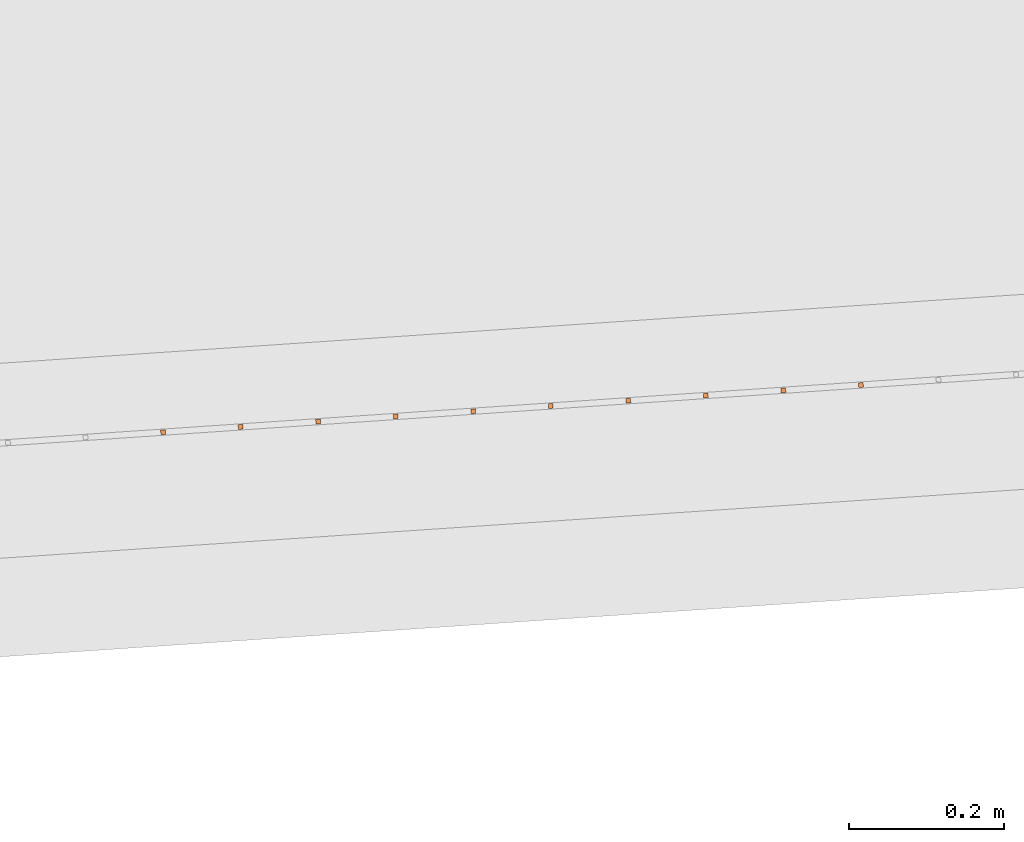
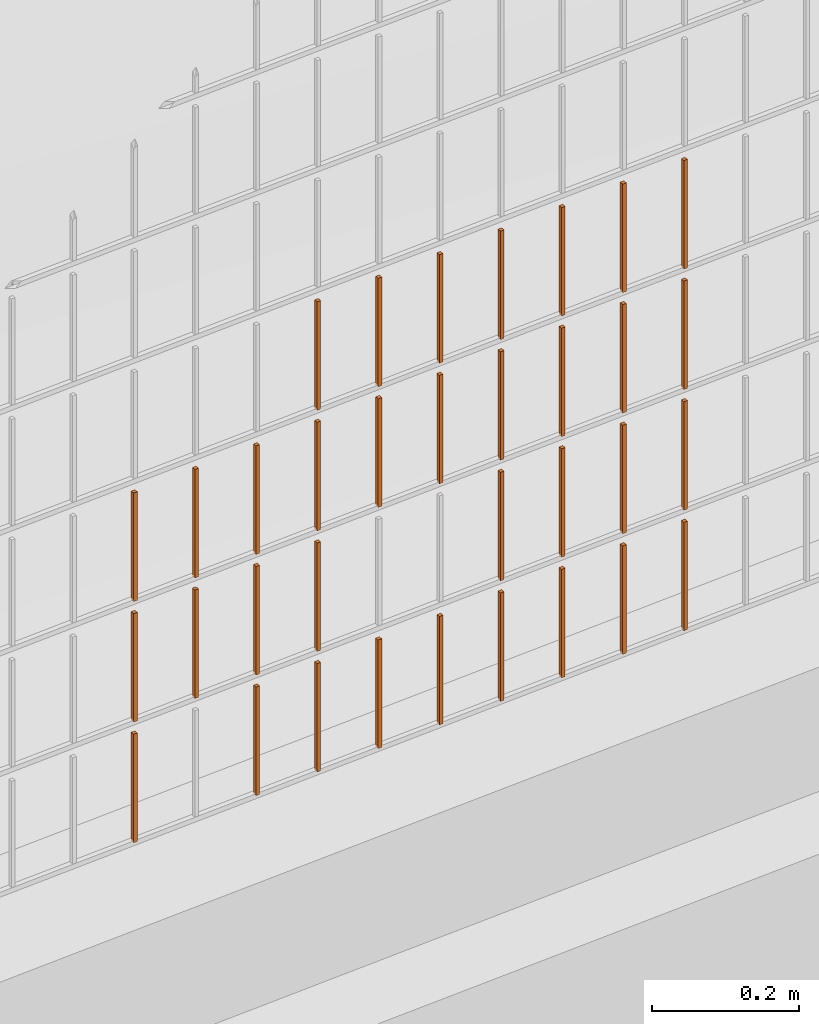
# One storey, part 389 of 1809: 34 proxies, 1 element without a shape of its own.
"""IFC2X3 building model written with IfcOpenShell, lengths in millimetres."""

from ifc_helpers import new_model, entity, si_unit, converted_unit, derived_unit, money_unit, direction, frame, origin_with_axes, place, context, subcontext, project, spatial, faceted_brep, source, transform, mapped, material, type_object, element, aggregate, save


model = new_model("IFC2X3")

# Units and contexts
model_context = context("Model", 3, precision=0.01, world=origin_with_axes(), true_north=direction((0.0, 1.0)))
body_context = subcontext(model_context, "Body", "Model", "MODEL_VIEW")
ifc_project = project(units=[si_unit("LENGTHUNIT", "METRE", prefix="MILLI"), si_unit("AREAUNIT", "SQUARE_METRE"), si_unit("VOLUMEUNIT", "CUBIC_METRE"), converted_unit("PLANEANGLEUNIT", "DEGREE", entity("IfcPlaneAngleMeasure", 0.0174532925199), si_unit("PLANEANGLEUNIT", "RADIAN"), dimensions=[0, 0, 0, 0, 0, 0, 0]), si_unit("SOLIDANGLEUNIT", "STERADIAN"), money_unit("EUR"), converted_unit("TIMEUNIT", "Year", entity("IfcTimeMeasure", 31556926.0), si_unit("TIMEUNIT", "SECOND"), dimensions=[0, 0, 1, 0, 0, 0, 0]), si_unit("MASSUNIT", "GRAM", prefix="KILO"), si_unit("THERMODYNAMICTEMPERATUREUNIT", "DEGREE_CELSIUS"), si_unit("LUMINOUSINTENSITYUNIT", "LUMEN"), si_unit("ENERGYUNIT", "JOULE", prefix="MEGA"), derived_unit("THERMALCONDUCTANCEUNIT", [(si_unit("POWERUNIT", "WATT"), 1), (si_unit("LENGTHUNIT", "METRE"), -1), (si_unit("THERMODYNAMICTEMPERATUREUNIT", "KELVIN"), -1)]), derived_unit("SPECIFICHEATCAPACITYUNIT", [(si_unit("ENERGYUNIT", "JOULE"), 1), (si_unit("MASSUNIT", "GRAM", prefix="KILO"), -1), (si_unit("THERMODYNAMICTEMPERATUREUNIT", "KELVIN"), -1)]), derived_unit("MASSDENSITYUNIT", [(si_unit("MASSUNIT", "GRAM", prefix="KILO"), 1), (si_unit("VOLUMEUNIT", "CUBIC_METRE"), -1)])], contexts=[model_context])

# Site, building, storey
site_placement = place(None, origin_with_axes())
site = spatial("IfcSite", under=ifc_project, at=site_placement, Name="Politse- ja Piirivalveameti ning Päästeameti ühishoone", CompositionType="ELEMENT")
building_placement = place(site_placement, origin_with_axes())
building = spatial("IfcBuilding", under=site, at=building_placement, Name="Politse- ja Piirivalveameti ning Päästeameti ühishoone", CompositionType="ELEMENT")
storey_placement = place(building_placement, origin_with_axes())
storey = spatial("IfcBuildingStorey", under=building, at=storey_placement, Name="Esimene korrus", CompositionType="ELEMENT", Elevation=0.0)

# Proxies
building_element_proxy_type_1 = type_object("IfcBuildingElementProxyType", Name="Railing Type", PredefinedType="NOTDEFINED")
proxy_1_placement = place(storey_placement, frame((89252.001212, -29183.4766571, 203.661247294), z_axis=(0.0, 0.0, 1.0), x_axis=(1.0, 0.0, 0.0)))
proxy_1 = element("IfcBuildingElementProxy", 1, at=proxy_1_placement, inside=storey, type_object=building_element_proxy_type_1, Name="PIIRDEAED")
ifc_material = material(Name="ET-03_Raud")
building_element_proxy_type_2 = type_object("IfcBuildingElementProxyType", Name="IfcBuildingElementProxy", PredefinedType="NOTDEFINED")
shared_shape_1 = source(origin_with_axes(), body_context, "Body", "Brep", [
    faceted_brep([(3.0, 3.0, -0.000752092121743), (-3.0, 3.0, -0.000752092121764), (-3.0, 3.0, 179.99926046), (3.0, 3.0, 179.99926046), (3.0, -3.0, 0.000752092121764), (-3.0, -3.0, 0.000752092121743), (-3.0, -3.0, 180.000764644), (3.0, -3.0, 180.000764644)], [[[0, 1, 2, 3]], [[0, 4, 5, 1]], [[1, 5, 6, 2]], [[3, 2, 6, 7]], [[4, 0, 3, 7]], [[5, 4, 7, 6]]]),
])
proxy_2_placement = place(proxy_1_placement, frame((-13895.0260654, -18236.3313344, 23.7430014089), z_axis=(0.0, 0.0, 1.0), x_axis=(1.0, 0.0, 0.0)))
proxy_2 = element("IfcBuildingElementProxy", 2, at=proxy_2_placement, type_object=building_element_proxy_type_2, material=ifc_material, Name="BALUSTER - 001", context=body_context, shape_type="MappedRepresentation", body=[
    mapped(shared_shape_1, transform((0.0, 0.0, 0.0), x_axis=(-0.0673926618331, 0.997726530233, 0.0), y_axis=(-0.997726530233, -0.0673926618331, 0.0), z_axis=(0.0, 0.0, 1.0))),
])
shared_shape_2 = source(origin_with_axes(), body_context, "Body", "Brep", [
    faceted_brep([(3.0, 3.0, -0.000752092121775), (-3.0, 3.0, -0.000752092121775), (-3.0, 3.0, 179.99926046), (3.0, 3.0, 179.99926046), (3.0, -3.0, 0.000752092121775), (-3.0, -3.0, 0.000752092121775), (-3.0, -3.0, 180.000764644), (3.0, -3.0, 180.000764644)], [[[0, 1, 2, 3]], [[0, 4, 5, 1]], [[1, 5, 6, 2]], [[3, 2, 6, 7]], [[4, 0, 3, 7]], [[5, 4, 7, 6]]]),
])
proxy_3_placement = place(proxy_1_placement, frame((-13196.6174943, -18189.1564711, 23.9184895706), z_axis=(0.0, 0.0, 1.0), x_axis=(1.0, 0.0, 0.0)))
proxy_3 = element("IfcBuildingElementProxy", 3, at=proxy_3_placement, type_object=building_element_proxy_type_2, material=ifc_material, Name="BALUSTER - 001", context=body_context, shape_type="MappedRepresentation", body=[
    mapped(shared_shape_2, transform((0.0, 0.0, 0.0), x_axis=(-0.0673926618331, 0.997726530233, 0.0), y_axis=(-0.997726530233, -0.0673926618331, 0.0), z_axis=(0.0, 0.0, 1.0))),
])
proxy_4_placement = place(proxy_1_placement, frame((-13196.6174943, -18189.1564711, 223.918489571), z_axis=(0.0, 0.0, 1.0), x_axis=(1.0, 0.0, 0.0)))
proxy_4 = element("IfcBuildingElementProxy", 4, at=proxy_4_placement, type_object=building_element_proxy_type_2, material=ifc_material, Name="BALUSTER - 001", context=body_context, shape_type="MappedRepresentation", body=[
    mapped(shared_shape_2, transform((0.0, 0.0, 0.0), x_axis=(-0.0673926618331, 0.997726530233, 0.0), y_axis=(-0.997726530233, -0.0673926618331, 0.0), z_axis=(0.0, 0.0, 1.0))),
])
shared_shape_3 = source(origin_with_axes(), body_context, "Body", "Brep", [
    faceted_brep([(3.0, 3.0, -0.000752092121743), (-3.0, 3.0, -0.000752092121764), (-3.0, 3.0, 179.99926046), (3.0, 3.0, 179.99926046), (3.0, -3.0, 0.000752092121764), (-3.0, -3.0, 0.000752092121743), (-3.0, -3.0, 180.000764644), (3.0, -3.0, 180.000764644)], [[[0, 1, 2, 3]], [[0, 4, 5, 1]], [[1, 5, 6, 2]], [[3, 2, 6, 7]], [[4, 0, 3, 7]], [[5, 4, 7, 6]]]),
])
proxy_5_placement = place(proxy_1_placement, frame((-13895.0260654, -18236.3313344, 223.743001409), z_axis=(0.0, 0.0, 1.0), x_axis=(1.0, 0.0, 0.0)))
proxy_5 = element("IfcBuildingElementProxy", 5, at=proxy_5_placement, type_object=building_element_proxy_type_2, material=ifc_material, Name="BALUSTER - 001", context=body_context, shape_type="MappedRepresentation", body=[
    mapped(shared_shape_3, transform((0.0, 0.0, 0.0), x_axis=(-0.0673926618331, 0.997726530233, 0.0), y_axis=(-0.997726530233, -0.0673926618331, 0.0), z_axis=(0.0, 0.0, 1.0))),
])
proxy_6_placement = place(proxy_1_placement, frame((-13994.7987184, -18243.0706006, 223.717931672), z_axis=(0.0, 0.0, 1.0), x_axis=(1.0, 0.0, 0.0)))
proxy_6 = element("IfcBuildingElementProxy", 6, at=proxy_6_placement, type_object=building_element_proxy_type_2, material=ifc_material, Name="BALUSTER - 001", context=body_context, shape_type="MappedRepresentation", body=[
    mapped(shared_shape_3, transform((0.0, 0.0, 0.0), x_axis=(-0.0673926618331, 0.997726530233, 0.0), y_axis=(-0.997726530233, -0.0673926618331, 0.0), z_axis=(0.0, 0.0, 1.0))),
])
proxy_7_placement = place(proxy_1_placement, frame((-13895.0260654, -18236.3313344, 423.743001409), z_axis=(0.0, 0.0, 1.0), x_axis=(1.0, 0.0, 0.0)))
proxy_7 = element("IfcBuildingElementProxy", 7, at=proxy_7_placement, type_object=building_element_proxy_type_2, material=ifc_material, Name="BALUSTER - 001", context=body_context, shape_type="MappedRepresentation", body=[
    mapped(shared_shape_3, transform((0.0, 0.0, 0.0), x_axis=(-0.0673926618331, 0.997726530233, 0.0), y_axis=(-0.997726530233, -0.0673926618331, 0.0), z_axis=(0.0, 0.0, 1.0))),
])
shared_shape_4 = source(origin_with_axes(), body_context, "Body", "Brep", [
    faceted_brep([(3.0, 3.0, -0.000752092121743), (-3.0, 3.0, -0.000752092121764), (-3.0, 3.0, 179.99926046), (3.0, 3.0, 179.99926046), (3.0, -3.0, 0.000752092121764), (-3.0, -3.0, 0.000752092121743), (-3.0, -3.0, 180.000764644), (3.0, -3.0, 180.000764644)], [[[0, 1, 2, 3]], [[0, 4, 5, 1]], [[1, 5, 6, 2]], [[3, 2, 6, 7]], [[4, 0, 3, 7]], [[5, 4, 7, 6]]]),
])
proxy_8_placement = place(proxy_1_placement, frame((-13994.7987184, -18243.0706006, 423.717931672), z_axis=(0.0, 0.0, 1.0), x_axis=(1.0, 0.0, 0.0)))
proxy_8 = element("IfcBuildingElementProxy", 8, at=proxy_8_placement, type_object=building_element_proxy_type_2, material=ifc_material, Name="BALUSTER - 001", context=body_context, shape_type="MappedRepresentation", body=[
    mapped(shared_shape_4, transform((0.0, 0.0, 0.0), x_axis=(-0.0673926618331, 0.997726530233, 0.0), y_axis=(-0.997726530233, -0.0673926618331, 0.0), z_axis=(0.0, 0.0, 1.0))),
])
shared_shape_5 = source(origin_with_axes(), body_context, "Body", "Brep", [
    faceted_brep([(3.0, 3.0, -0.000752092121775), (-3.0, 3.0, -0.000752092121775), (-3.0, 3.0, 179.99926046), (3.0, 3.0, 179.99926046), (3.0, -3.0, 0.000752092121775), (-3.0, -3.0, 0.000752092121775), (-3.0, -3.0, 180.000764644), (3.0, -3.0, 180.000764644)], [[[0, 1, 2, 3]], [[0, 4, 5, 1]], [[1, 5, 6, 2]], [[3, 2, 6, 7]], [[4, 0, 3, 7]], [[5, 4, 7, 6]]]),
])
proxy_9_placement = place(proxy_1_placement, frame((-13196.6174943, -18189.1564711, 423.918489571), z_axis=(0.0, 0.0, 1.0), x_axis=(1.0, 0.0, 0.0)))
proxy_9 = element("IfcBuildingElementProxy", 9, at=proxy_9_placement, type_object=building_element_proxy_type_2, material=ifc_material, Name="BALUSTER - 001", context=body_context, shape_type="MappedRepresentation", body=[
    mapped(shared_shape_5, transform((0.0, 0.0, 0.0), x_axis=(-0.0673926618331, 0.997726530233, 0.0), y_axis=(-0.997726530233, -0.0673926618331, 0.0), z_axis=(0.0, 0.0, 1.0))),
])
shared_shape_6 = source(origin_with_axes(), body_context, "Body", "Brep", [
    faceted_brep([(3.0, 3.0, -0.000752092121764), (-3.0, 3.0, -0.000752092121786), (-3.0, 3.0, 179.99926046), (3.0, 3.0, 179.99926046), (3.0, -3.0, 0.000752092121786), (-3.0, -3.0, 0.000752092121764), (-3.0, -3.0, 180.000764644), (3.0, -3.0, 180.000764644)], [[[0, 1, 2, 3]], [[0, 4, 5, 1]], [[1, 5, 6, 2]], [[3, 2, 6, 7]], [[4, 0, 3, 7]], [[5, 4, 7, 6]]]),
])
proxy_10_placement = place(proxy_1_placement, frame((-14094.5713715, -18249.8098668, 223.692861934), z_axis=(0.0, 0.0, 1.0), x_axis=(1.0, 0.0, 0.0)))
proxy_10 = element("IfcBuildingElementProxy", 10, at=proxy_10_placement, type_object=building_element_proxy_type_2, material=ifc_material, Name="BALUSTER - 001", context=body_context, shape_type="MappedRepresentation", body=[
    mapped(shared_shape_6, transform((0.0, 0.0, 0.0), x_axis=(-0.0673926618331, 0.997726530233, 0.0), y_axis=(-0.997726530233, -0.0673926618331, 0.0), z_axis=(0.0, 0.0, 1.0))),
])
proxy_11_placement = place(proxy_1_placement, frame((-14094.5713715, -18249.8098668, 423.692861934), z_axis=(0.0, 0.0, 1.0), x_axis=(1.0, 0.0, 0.0)))
proxy_11 = element("IfcBuildingElementProxy", 11, at=proxy_11_placement, type_object=building_element_proxy_type_2, material=ifc_material, Name="BALUSTER - 001", context=body_context, shape_type="MappedRepresentation", body=[
    mapped(shared_shape_6, transform((0.0, 0.0, 0.0), x_axis=(-0.0673926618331, 0.997726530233, 0.0), y_axis=(-0.997726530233, -0.0673926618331, 0.0), z_axis=(0.0, 0.0, 1.0))),
])
shared_shape_7 = source(origin_with_axes(), body_context, "Body", "Brep", [
    faceted_brep([(3.0, 3.0, -0.000752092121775), (-3.0, 3.0, -0.000752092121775), (-3.0, 3.0, 179.99926046), (3.0, 3.0, 179.99926046), (3.0, -3.0, 0.000752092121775), (-3.0, -3.0, 0.000752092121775), (-3.0, -3.0, 180.000764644), (3.0, -3.0, 180.000764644)], [[[0, 1, 2, 3]], [[0, 4, 5, 1]], [[1, 5, 6, 2]], [[3, 2, 6, 7]], [[4, 0, 3, 7]], [[5, 4, 7, 6]]]),
])
proxy_12_placement = place(proxy_1_placement, frame((-13795.2534124, -18229.5920682, 423.768071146), z_axis=(0.0, 0.0, 1.0), x_axis=(1.0, 0.0, 0.0)))
proxy_12 = element("IfcBuildingElementProxy", 12, at=proxy_12_placement, type_object=building_element_proxy_type_2, material=ifc_material, Name="BALUSTER - 001", context=body_context, shape_type="MappedRepresentation", body=[
    mapped(shared_shape_7, transform((0.0, 0.0, 0.0), x_axis=(-0.0673926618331, 0.997726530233, 0.0), y_axis=(-0.997726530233, -0.0673926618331, 0.0), z_axis=(0.0, 0.0, 1.0))),
])
shared_shape_8 = source(origin_with_axes(), body_context, "Body", "Brep", [
    faceted_brep([(3.0, 3.0, -0.000752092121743), (-3.0, 3.0, -0.000752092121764), (-3.0, 3.0, 179.99926046), (3.0, 3.0, 179.99926046), (3.0, -3.0, 0.000752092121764), (-3.0, -3.0, 0.000752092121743), (-3.0, -3.0, 180.000764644), (3.0, -3.0, 180.000764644)], [[[0, 1, 2, 3]], [[0, 4, 5, 1]], [[1, 5, 6, 2]], [[3, 2, 6, 7]], [[4, 0, 3, 7]], [[5, 4, 7, 6]]]),
])
proxy_13_placement = place(proxy_1_placement, frame((-13296.3901473, -18195.8957373, 223.893419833), z_axis=(0.0, 0.0, 1.0), x_axis=(1.0, 0.0, 0.0)))
proxy_13 = element("IfcBuildingElementProxy", 13, at=proxy_13_placement, type_object=building_element_proxy_type_2, material=ifc_material, Name="BALUSTER - 001", context=body_context, shape_type="MappedRepresentation", body=[
    mapped(shared_shape_8, transform((0.0, 0.0, 0.0), x_axis=(-0.0673926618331, 0.997726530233, 0.0), y_axis=(-0.997726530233, -0.0673926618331, 0.0), z_axis=(0.0, 0.0, 1.0))),
])
proxy_14_placement = place(proxy_1_placement, frame((-13396.1628003, -18202.6350035, 223.868350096), z_axis=(0.0, 0.0, 1.0), x_axis=(1.0, 0.0, 0.0)))
proxy_14 = element("IfcBuildingElementProxy", 14, at=proxy_14_placement, type_object=building_element_proxy_type_2, material=ifc_material, Name="BALUSTER - 001", context=body_context, shape_type="MappedRepresentation", body=[
    mapped(shared_shape_8, transform((0.0, 0.0, 0.0), x_axis=(-0.0673926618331, 0.997726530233, 0.0), y_axis=(-0.997726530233, -0.0673926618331, 0.0), z_axis=(0.0, 0.0, 1.0))),
])
proxy_15_placement = place(proxy_1_placement, frame((-13396.1628003, -18202.6350035, 423.868350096), z_axis=(0.0, 0.0, 1.0), x_axis=(1.0, 0.0, 0.0)))
proxy_15 = element("IfcBuildingElementProxy", 15, at=proxy_15_placement, type_object=building_element_proxy_type_2, material=ifc_material, Name="BALUSTER - 001", context=body_context, shape_type="MappedRepresentation", body=[
    mapped(shared_shape_8, transform((0.0, 0.0, 0.0), x_axis=(-0.0673926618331, 0.997726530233, 0.0), y_axis=(-0.997726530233, -0.0673926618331, 0.0), z_axis=(0.0, 0.0, 1.0))),
])
shared_shape_9 = source(origin_with_axes(), body_context, "Body", "Brep", [
    faceted_brep([(3.0, 3.0, -0.000752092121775), (-3.0, 3.0, -0.000752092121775), (-3.0, 3.0, 179.99926046), (3.0, 3.0, 179.99926046), (3.0, -3.0, 0.000752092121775), (-3.0, -3.0, 0.000752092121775), (-3.0, -3.0, 180.000764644), (3.0, -3.0, 180.000764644)], [[[0, 1, 2, 3]], [[0, 4, 5, 1]], [[1, 5, 6, 2]], [[3, 2, 6, 7]], [[4, 0, 3, 7]], [[5, 4, 7, 6]]]),
])
proxy_16_placement = place(proxy_1_placement, frame((-13196.6174943, -18189.1564711, 623.918489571), z_axis=(0.0, 0.0, 1.0), x_axis=(1.0, 0.0, 0.0)))
proxy_16 = element("IfcBuildingElementProxy", 16, at=proxy_16_placement, type_object=building_element_proxy_type_2, material=ifc_material, Name="BALUSTER - 001", context=body_context, shape_type="MappedRepresentation", body=[
    mapped(shared_shape_9, transform((0.0, 0.0, 0.0), x_axis=(-0.0673926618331, 0.997726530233, 0.0), y_axis=(-0.997726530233, -0.0673926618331, 0.0), z_axis=(0.0, 0.0, 1.0))),
])
shared_shape_10 = source(origin_with_axes(), body_context, "Body", "Brep", [
    faceted_brep([(3.0, 3.0, -0.000752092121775), (-3.0, 3.0, -0.000752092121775), (-3.0, 3.0, 179.99926046), (3.0, 3.0, 179.99926046), (3.0, -3.0, 0.000752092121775), (-3.0, -3.0, 0.000752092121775), (-3.0, -3.0, 180.000764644), (3.0, -3.0, 180.000764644)], [[[0, 1, 2, 3]], [[0, 4, 5, 1]], [[1, 5, 6, 2]], [[3, 2, 6, 7]], [[4, 0, 3, 7]], [[5, 4, 7, 6]]]),
])
proxy_17_placement = place(proxy_1_placement, frame((-13795.2534124, -18229.5920682, 623.768071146), z_axis=(0.0, 0.0, 1.0), x_axis=(1.0, 0.0, 0.0)))
proxy_17 = element("IfcBuildingElementProxy", 17, at=proxy_17_placement, type_object=building_element_proxy_type_2, material=ifc_material, Name="BALUSTER - 001", context=body_context, shape_type="MappedRepresentation", body=[
    mapped(shared_shape_10, transform((0.0, 0.0, 0.0), x_axis=(-0.0673926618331, 0.997726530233, 0.0), y_axis=(-0.997726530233, -0.0673926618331, 0.0), z_axis=(0.0, 0.0, 1.0))),
])
shared_shape_11 = source(origin_with_axes(), body_context, "Body", "Brep", [
    faceted_brep([(3.0, 3.0, -0.000752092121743), (-3.0, 3.0, -0.000752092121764), (-3.0, 3.0, 179.99926046), (3.0, 3.0, 179.99926046), (3.0, -3.0, 0.000752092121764), (-3.0, -3.0, 0.000752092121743), (-3.0, -3.0, 180.000764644), (3.0, -3.0, 180.000764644)], [[[0, 1, 2, 3]], [[0, 4, 5, 1]], [[1, 5, 6, 2]], [[3, 2, 6, 7]], [[4, 0, 3, 7]], [[5, 4, 7, 6]]]),
])
proxy_18_placement = place(proxy_1_placement, frame((-13396.1628003, -18202.6350035, 623.868350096), z_axis=(0.0, 0.0, 1.0), x_axis=(1.0, 0.0, 0.0)))
proxy_18 = element("IfcBuildingElementProxy", 18, at=proxy_18_placement, type_object=building_element_proxy_type_2, material=ifc_material, Name="BALUSTER - 001", context=body_context, shape_type="MappedRepresentation", body=[
    mapped(shared_shape_11, transform((0.0, 0.0, 0.0), x_axis=(-0.0673926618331, 0.997726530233, 0.0), y_axis=(-0.997726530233, -0.0673926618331, 0.0), z_axis=(0.0, 0.0, 1.0))),
])
shared_shape_12 = source(origin_with_axes(), body_context, "Body", "Brep", [
    faceted_brep([(3.0, 3.0, -0.000752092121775), (-3.0, 3.0, -0.000752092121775), (-3.0, 3.0, 179.99926046), (3.0, 3.0, 179.99926046), (3.0, -3.0, 0.000752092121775), (-3.0, -3.0, 0.000752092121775), (-3.0, -3.0, 180.000764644), (3.0, -3.0, 180.000764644)], [[[0, 1, 2, 3]], [[0, 4, 5, 1]], [[1, 5, 6, 2]], [[3, 2, 6, 7]], [[4, 0, 3, 7]], [[5, 4, 7, 6]]]),
])
proxy_19_placement = place(proxy_1_placement, frame((-13795.2534124, -18229.5920682, 23.7680711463), z_axis=(0.0, 0.0, 1.0), x_axis=(1.0, 0.0, 0.0)))
proxy_19 = element("IfcBuildingElementProxy", 19, at=proxy_19_placement, type_object=building_element_proxy_type_2, material=ifc_material, Name="BALUSTER - 001", context=body_context, shape_type="MappedRepresentation", body=[
    mapped(shared_shape_12, transform((0.0, 0.0, 0.0), x_axis=(-0.0673926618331, 0.997726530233, 0.0), y_axis=(-0.997726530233, -0.0673926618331, 0.0), z_axis=(0.0, 0.0, 1.0))),
])
shared_shape_13 = source(origin_with_axes(), body_context, "Body", "Brep", [
    faceted_brep([(3.0, 3.0, -0.000752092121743), (-3.0, 3.0, -0.000752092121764), (-3.0, 3.0, 179.99926046), (3.0, 3.0, 179.99926046), (3.0, -3.0, 0.000752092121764), (-3.0, -3.0, 0.000752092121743), (-3.0, -3.0, 180.000764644), (3.0, -3.0, 180.000764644)], [[[0, 1, 2, 3]], [[0, 4, 5, 1]], [[1, 5, 6, 2]], [[3, 2, 6, 7]], [[4, 0, 3, 7]], [[5, 4, 7, 6]]]),
])
proxy_20_placement = place(proxy_1_placement, frame((-13296.3901473, -18195.8957373, 23.8934198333), z_axis=(0.0, 0.0, 1.0), x_axis=(1.0, 0.0, 0.0)))
proxy_20 = element("IfcBuildingElementProxy", 20, at=proxy_20_placement, type_object=building_element_proxy_type_2, material=ifc_material, Name="BALUSTER - 001", context=body_context, shape_type="MappedRepresentation", body=[
    mapped(shared_shape_13, transform((0.0, 0.0, 0.0), x_axis=(-0.0673926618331, 0.997726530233, 0.0), y_axis=(-0.997726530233, -0.0673926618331, 0.0), z_axis=(0.0, 0.0, 1.0))),
])
shared_shape_14 = source(origin_with_axes(), body_context, "Body", "Brep", [
    faceted_brep([(3.0, 3.0, -0.000752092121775), (-3.0, 3.0, -0.000752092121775), (-3.0, 3.0, 179.99926046), (3.0, 3.0, 179.99926046), (3.0, -3.0, 0.000752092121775), (-3.0, -3.0, 0.000752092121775), (-3.0, -3.0, 180.000764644), (3.0, -3.0, 180.000764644)], [[[0, 1, 2, 3]], [[0, 4, 5, 1]], [[1, 5, 6, 2]], [[3, 2, 6, 7]], [[4, 0, 3, 7]], [[5, 4, 7, 6]]]),
])
proxy_21_placement = place(proxy_1_placement, frame((-13795.2534124, -18229.5920682, 223.768071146), z_axis=(0.0, 0.0, 1.0), x_axis=(1.0, 0.0, 0.0)))
proxy_21 = element("IfcBuildingElementProxy", 21, at=proxy_21_placement, type_object=building_element_proxy_type_2, material=ifc_material, Name="BALUSTER - 001", context=body_context, shape_type="MappedRepresentation", body=[
    mapped(shared_shape_14, transform((0.0, 0.0, 0.0), x_axis=(-0.0673926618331, 0.997726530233, 0.0), y_axis=(-0.997726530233, -0.0673926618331, 0.0), z_axis=(0.0, 0.0, 1.0))),
])
shared_shape_15 = source(origin_with_axes(), body_context, "Body", "Brep", [
    faceted_brep([(3.0, 3.0, -0.000752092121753), (-3.0, 3.0, -0.000752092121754), (-3.0, 3.0, 179.99926046), (3.0, 3.0, 179.99926046), (3.0, -3.0, 0.000752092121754), (-3.0, -3.0, 0.000752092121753), (-3.0, -3.0, 180.000764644), (3.0, -3.0, 180.000764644)], [[[0, 1, 2, 3]], [[0, 4, 5, 1]], [[1, 5, 6, 2]], [[3, 2, 6, 7]], [[4, 0, 3, 7]], [[5, 4, 7, 6]]]),
])
proxy_22_placement = place(proxy_1_placement, frame((-13495.9354533, -18209.3742697, 423.843280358), z_axis=(0.0, 0.0, 1.0), x_axis=(1.0, 0.0, 0.0)))
proxy_22 = element("IfcBuildingElementProxy", 22, at=proxy_22_placement, type_object=building_element_proxy_type_2, material=ifc_material, Name="BALUSTER - 001", context=body_context, shape_type="MappedRepresentation", body=[
    mapped(shared_shape_15, transform((0.0, 0.0, 0.0), x_axis=(-0.0673926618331, 0.997726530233, 0.0), y_axis=(-0.997726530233, -0.0673926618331, 0.0), z_axis=(0.0, 0.0, 1.0))),
])
proxy_23_placement = place(proxy_1_placement, frame((-13495.9354533, -18209.3742697, 623.843280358), z_axis=(0.0, 0.0, 1.0), x_axis=(1.0, 0.0, 0.0)))
proxy_23 = element("IfcBuildingElementProxy", 23, at=proxy_23_placement, type_object=building_element_proxy_type_2, material=ifc_material, Name="BALUSTER - 001", context=body_context, shape_type="MappedRepresentation", body=[
    mapped(shared_shape_15, transform((0.0, 0.0, 0.0), x_axis=(-0.0673926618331, 0.997726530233, 0.0), y_axis=(-0.997726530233, -0.0673926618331, 0.0), z_axis=(0.0, 0.0, 1.0))),
])
shared_shape_16 = source(origin_with_axes(), body_context, "Body", "Brep", [
    faceted_brep([(3.0, 3.0, -0.000752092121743), (-3.0, 3.0, -0.000752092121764), (-3.0, 3.0, 179.99926046), (3.0, 3.0, 179.99926046), (3.0, -3.0, 0.000752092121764), (-3.0, -3.0, 0.000752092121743), (-3.0, -3.0, 180.000764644), (3.0, -3.0, 180.000764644)], [[[0, 1, 2, 3]], [[0, 4, 5, 1]], [[1, 5, 6, 2]], [[3, 2, 6, 7]], [[4, 0, 3, 7]], [[5, 4, 7, 6]]]),
])
proxy_24_placement = place(proxy_1_placement, frame((-13296.3901473, -18195.8957373, 423.893419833), z_axis=(0.0, 0.0, 1.0), x_axis=(1.0, 0.0, 0.0)))
proxy_24 = element("IfcBuildingElementProxy", 24, at=proxy_24_placement, type_object=building_element_proxy_type_2, material=ifc_material, Name="BALUSTER - 001", context=body_context, shape_type="MappedRepresentation", body=[
    mapped(shared_shape_16, transform((0.0, 0.0, 0.0), x_axis=(-0.0673926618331, 0.997726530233, 0.0), y_axis=(-0.997726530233, -0.0673926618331, 0.0), z_axis=(0.0, 0.0, 1.0))),
])
shared_shape_17 = source(origin_with_axes(), body_context, "Body", "Brep", [
    faceted_brep([(3.0, 3.0, -0.000752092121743), (-3.0, 3.0, -0.000752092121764), (-3.0, 3.0, 179.99926046), (3.0, 3.0, 179.99926046), (3.0, -3.0, 0.000752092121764), (-3.0, -3.0, 0.000752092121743), (-3.0, -3.0, 180.000764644), (3.0, -3.0, 180.000764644)], [[[0, 1, 2, 3]], [[0, 4, 5, 1]], [[1, 5, 6, 2]], [[3, 2, 6, 7]], [[4, 0, 3, 7]], [[5, 4, 7, 6]]]),
])
proxy_25_placement = place(proxy_1_placement, frame((-13396.1628003, -18202.6350035, 23.8683500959), z_axis=(0.0, 0.0, 1.0), x_axis=(1.0, 0.0, 0.0)))
proxy_25 = element("IfcBuildingElementProxy", 25, at=proxy_25_placement, type_object=building_element_proxy_type_2, material=ifc_material, Name="BALUSTER - 001", context=body_context, shape_type="MappedRepresentation", body=[
    mapped(shared_shape_17, transform((0.0, 0.0, 0.0), x_axis=(-0.0673926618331, 0.997726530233, 0.0), y_axis=(-0.997726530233, -0.0673926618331, 0.0), z_axis=(0.0, 0.0, 1.0))),
])
shared_shape_18 = source(origin_with_axes(), body_context, "Body", "Brep", [
    faceted_brep([(3.0, 3.0, -0.000752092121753), (-3.0, 3.0, -0.000752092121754), (-3.0, 3.0, 179.99926046), (3.0, 3.0, 179.99926046), (3.0, -3.0, 0.000752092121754), (-3.0, -3.0, 0.000752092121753), (-3.0, -3.0, 180.000764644), (3.0, -3.0, 180.000764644)], [[[0, 1, 2, 3]], [[0, 4, 5, 1]], [[1, 5, 6, 2]], [[3, 2, 6, 7]], [[4, 0, 3, 7]], [[5, 4, 7, 6]]]),
])
proxy_26_placement = place(proxy_1_placement, frame((-13595.7081064, -18216.1135358, 23.8182106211), z_axis=(0.0, 0.0, 1.0), x_axis=(1.0, 0.0, 0.0)))
proxy_26 = element("IfcBuildingElementProxy", 26, at=proxy_26_placement, type_object=building_element_proxy_type_2, material=ifc_material, Name="BALUSTER - 001", context=body_context, shape_type="MappedRepresentation", body=[
    mapped(shared_shape_18, transform((0.0, 0.0, 0.0), x_axis=(-0.0673926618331, 0.997726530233, 0.0), y_axis=(-0.997726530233, -0.0673926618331, 0.0), z_axis=(0.0, 0.0, 1.0))),
])
shared_shape_19 = source(origin_with_axes(), body_context, "Body", "Brep", [
    faceted_brep([(3.0, 3.0, -0.000752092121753), (-3.0, 3.0, -0.000752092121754), (-3.0, 3.0, 179.99926046), (3.0, 3.0, 179.99926046), (3.0, -3.0, 0.000752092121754), (-3.0, -3.0, 0.000752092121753), (-3.0, -3.0, 180.000764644), (3.0, -3.0, 180.000764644)], [[[0, 1, 2, 3]], [[0, 4, 5, 1]], [[1, 5, 6, 2]], [[3, 2, 6, 7]], [[4, 0, 3, 7]], [[5, 4, 7, 6]]]),
])
proxy_27_placement = place(proxy_1_placement, frame((-13495.9354533, -18209.3742697, 23.8432803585), z_axis=(0.0, 0.0, 1.0), x_axis=(1.0, 0.0, 0.0)))
proxy_27 = element("IfcBuildingElementProxy", 27, at=proxy_27_placement, type_object=building_element_proxy_type_2, material=ifc_material, Name="BALUSTER - 001", context=body_context, shape_type="MappedRepresentation", body=[
    mapped(shared_shape_19, transform((0.0, 0.0, 0.0), x_axis=(-0.0673926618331, 0.997726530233, 0.0), y_axis=(-0.997726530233, -0.0673926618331, 0.0), z_axis=(0.0, 0.0, 1.0))),
])
shared_shape_20 = source(origin_with_axes(), body_context, "Body", "Brep", [
    faceted_brep([(3.0, 3.0, -0.000752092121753), (-3.0, 3.0, -0.000752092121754), (-3.0, 3.0, 179.99926046), (3.0, 3.0, 179.99926046), (3.0, -3.0, 0.000752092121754), (-3.0, -3.0, 0.000752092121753), (-3.0, -3.0, 180.000764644), (3.0, -3.0, 180.000764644)], [[[0, 1, 2, 3]], [[0, 4, 5, 1]], [[1, 5, 6, 2]], [[3, 2, 6, 7]], [[4, 0, 3, 7]], [[5, 4, 7, 6]]]),
])
proxy_28_placement = place(proxy_1_placement, frame((-13595.7081064, -18216.1135358, 423.818210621), z_axis=(0.0, 0.0, 1.0), x_axis=(1.0, 0.0, 0.0)))
proxy_28 = element("IfcBuildingElementProxy", 28, at=proxy_28_placement, type_object=building_element_proxy_type_2, material=ifc_material, Name="BALUSTER - 001", context=body_context, shape_type="MappedRepresentation", body=[
    mapped(shared_shape_20, transform((0.0, 0.0, 0.0), x_axis=(-0.0673926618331, 0.997726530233, 0.0), y_axis=(-0.997726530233, -0.0673926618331, 0.0), z_axis=(0.0, 0.0, 1.0))),
])
shared_shape_21 = source(origin_with_axes(), body_context, "Body", "Brep", [
    faceted_brep([(3.0, 3.0, -0.000752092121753), (-3.0, 3.0, -0.000752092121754), (-3.0, 3.0, 179.99926046), (3.0, 3.0, 179.99926046), (3.0, -3.0, 0.000752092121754), (-3.0, -3.0, 0.000752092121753), (-3.0, -3.0, 180.000764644), (3.0, -3.0, 180.000764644)], [[[0, 1, 2, 3]], [[0, 4, 5, 1]], [[1, 5, 6, 2]], [[3, 2, 6, 7]], [[4, 0, 3, 7]], [[5, 4, 7, 6]]]),
])
proxy_29_placement = place(proxy_1_placement, frame((-13495.9354533, -18209.3742697, 223.843280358), z_axis=(0.0, 0.0, 1.0), x_axis=(1.0, 0.0, 0.0)))
proxy_29 = element("IfcBuildingElementProxy", 29, at=proxy_29_placement, type_object=building_element_proxy_type_2, material=ifc_material, Name="BALUSTER - 001", context=body_context, shape_type="MappedRepresentation", body=[
    mapped(shared_shape_21, transform((0.0, 0.0, 0.0), x_axis=(-0.0673926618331, 0.997726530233, 0.0), y_axis=(-0.997726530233, -0.0673926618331, 0.0), z_axis=(0.0, 0.0, 1.0))),
])
shared_shape_22 = source(origin_with_axes(), body_context, "Body", "Brep", [
    faceted_brep([(3.0, 3.0, -0.000752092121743), (-3.0, 3.0, -0.000752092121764), (-3.0, 3.0, 179.99926046), (3.0, 3.0, 179.99926046), (3.0, -3.0, 0.000752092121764), (-3.0, -3.0, 0.000752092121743), (-3.0, -3.0, 180.000764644), (3.0, -3.0, 180.000764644)], [[[0, 1, 2, 3]], [[0, 4, 5, 1]], [[1, 5, 6, 2]], [[3, 2, 6, 7]], [[4, 0, 3, 7]], [[5, 4, 7, 6]]]),
])
proxy_30_placement = place(proxy_1_placement, frame((-13296.3901473, -18195.8957373, 623.893419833), z_axis=(0.0, 0.0, 1.0), x_axis=(1.0, 0.0, 0.0)))
proxy_30 = element("IfcBuildingElementProxy", 30, at=proxy_30_placement, type_object=building_element_proxy_type_2, material=ifc_material, Name="BALUSTER - 001", context=body_context, shape_type="MappedRepresentation", body=[
    mapped(shared_shape_22, transform((0.0, 0.0, 0.0), x_axis=(-0.0673926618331, 0.997726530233, 0.0), y_axis=(-0.997726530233, -0.0673926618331, 0.0), z_axis=(0.0, 0.0, 1.0))),
])
shared_shape_23 = source(origin_with_axes(), body_context, "Body", "Brep", [
    faceted_brep([(3.0, 3.0, -0.000752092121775), (-3.0, 3.0, -0.000752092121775), (-3.0, 3.0, 179.99926046), (3.0, 3.0, 179.99926046), (3.0, -3.0, 0.000752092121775), (-3.0, -3.0, 0.000752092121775), (-3.0, -3.0, 180.000764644), (3.0, -3.0, 180.000764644)], [[[0, 1, 2, 3]], [[0, 4, 5, 1]], [[1, 5, 6, 2]], [[3, 2, 6, 7]], [[4, 0, 3, 7]], [[5, 4, 7, 6]]]),
])
proxy_31_placement = place(proxy_1_placement, frame((-13695.4807594, -18222.852802, 23.7931408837), z_axis=(0.0, 0.0, 1.0), x_axis=(1.0, 0.0, 0.0)))
proxy_31 = element("IfcBuildingElementProxy", 31, at=proxy_31_placement, type_object=building_element_proxy_type_2, material=ifc_material, Name="BALUSTER - 001", context=body_context, shape_type="MappedRepresentation", body=[
    mapped(shared_shape_23, transform((0.0, 0.0, 0.0), x_axis=(-0.0673926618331, 0.997726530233, 0.0), y_axis=(-0.997726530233, -0.0673926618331, 0.0), z_axis=(0.0, 0.0, 1.0))),
])
shared_shape_24 = source(origin_with_axes(), body_context, "Body", "Brep", [
    faceted_brep([(3.0, 3.0, -0.000752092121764), (-3.0, 3.0, -0.000752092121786), (-3.0, 3.0, 179.99926046), (3.0, 3.0, 179.99926046), (3.0, -3.0, 0.000752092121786), (-3.0, -3.0, 0.000752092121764), (-3.0, -3.0, 180.000764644), (3.0, -3.0, 180.000764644)], [[[0, 1, 2, 3]], [[0, 4, 5, 1]], [[1, 5, 6, 2]], [[3, 2, 6, 7]], [[4, 0, 3, 7]], [[5, 4, 7, 6]]]),
])
proxy_32_placement = place(proxy_1_placement, frame((-14094.5713715, -18249.8098668, 23.6928619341), z_axis=(0.0, 0.0, 1.0), x_axis=(1.0, 0.0, 0.0)))
proxy_32 = element("IfcBuildingElementProxy", 32, at=proxy_32_placement, type_object=building_element_proxy_type_2, material=ifc_material, Name="BALUSTER - 001", context=body_context, shape_type="MappedRepresentation", body=[
    mapped(shared_shape_24, transform((0.0, 0.0, 0.0), x_axis=(-0.0673926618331, 0.997726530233, 0.0), y_axis=(-0.997726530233, -0.0673926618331, 0.0), z_axis=(0.0, 0.0, 1.0))),
])
shared_shape_25 = source(origin_with_axes(), body_context, "Body", "Brep", [
    faceted_brep([(3.0, 3.0, -0.000752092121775), (-3.0, 3.0, -0.000752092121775), (-3.0, 3.0, 179.99926046), (3.0, 3.0, 179.99926046), (3.0, -3.0, 0.000752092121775), (-3.0, -3.0, 0.000752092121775), (-3.0, -3.0, 180.000764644), (3.0, -3.0, 180.000764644)], [[[0, 1, 2, 3]], [[0, 4, 5, 1]], [[1, 5, 6, 2]], [[3, 2, 6, 7]], [[4, 0, 3, 7]], [[5, 4, 7, 6]]]),
])
proxy_33_placement = place(proxy_1_placement, frame((-13695.4807594, -18222.852802, 423.793140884), z_axis=(0.0, 0.0, 1.0), x_axis=(1.0, 0.0, 0.0)))
proxy_33 = element("IfcBuildingElementProxy", 33, at=proxy_33_placement, type_object=building_element_proxy_type_2, material=ifc_material, Name="BALUSTER - 001", context=body_context, shape_type="MappedRepresentation", body=[
    mapped(shared_shape_25, transform((0.0, 0.0, 0.0), x_axis=(-0.0673926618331, 0.997726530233, 0.0), y_axis=(-0.997726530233, -0.0673926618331, 0.0), z_axis=(0.0, 0.0, 1.0))),
])
shared_shape_26 = source(origin_with_axes(), body_context, "Body", "Brep", [
    faceted_brep([(3.0, 3.0, -0.000752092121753), (-3.0, 3.0, -0.000752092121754), (-3.0, 3.0, 179.99926046), (3.0, 3.0, 179.99926046), (3.0, -3.0, 0.000752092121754), (-3.0, -3.0, 0.000752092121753), (-3.0, -3.0, 180.000764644), (3.0, -3.0, 180.000764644)], [[[0, 1, 2, 3]], [[0, 4, 5, 1]], [[1, 5, 6, 2]], [[3, 2, 6, 7]], [[4, 0, 3, 7]], [[5, 4, 7, 6]]]),
])
proxy_34_placement = place(proxy_1_placement, frame((-13595.7081064, -18216.1135358, 623.818210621), z_axis=(0.0, 0.0, 1.0), x_axis=(1.0, 0.0, 0.0)))
proxy_34 = element("IfcBuildingElementProxy", 34, at=proxy_34_placement, type_object=building_element_proxy_type_2, material=ifc_material, Name="BALUSTER - 001", context=body_context, shape_type="MappedRepresentation", body=[
    mapped(shared_shape_26, transform((0.0, 0.0, 0.0), x_axis=(-0.0673926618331, 0.997726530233, 0.0), y_axis=(-0.997726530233, -0.0673926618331, 0.0), z_axis=(0.0, 0.0, 1.0))),
])
shared_shape_27 = source(origin_with_axes(), body_context, "Body", "Brep", [
    faceted_brep([(3.0, 3.0, -0.000752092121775), (-3.0, 3.0, -0.000752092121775), (-3.0, 3.0, 179.99926046), (3.0, 3.0, 179.99926046), (3.0, -3.0, 0.000752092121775), (-3.0, -3.0, 0.000752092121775), (-3.0, -3.0, 180.000764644), (3.0, -3.0, 180.000764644)], [[[0, 1, 2, 3]], [[0, 4, 5, 1]], [[1, 5, 6, 2]], [[3, 2, 6, 7]], [[4, 0, 3, 7]], [[5, 4, 7, 6]]]),
])
proxy_35_placement = place(proxy_1_placement, frame((-13695.4807594, -18222.852802, 623.793140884), z_axis=(0.0, 0.0, 1.0), x_axis=(1.0, 0.0, 0.0)))
proxy_35 = element("IfcBuildingElementProxy", 35, at=proxy_35_placement, type_object=building_element_proxy_type_2, material=ifc_material, Name="BALUSTER - 001", context=body_context, shape_type="MappedRepresentation", body=[
    mapped(shared_shape_27, transform((0.0, 0.0, 0.0), x_axis=(-0.0673926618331, 0.997726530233, 0.0), y_axis=(-0.997726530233, -0.0673926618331, 0.0), z_axis=(0.0, 0.0, 1.0))),
])
aggregate(proxy_1, [proxy_3, proxy_20, proxy_25, proxy_27, proxy_26, proxy_31, proxy_19, proxy_2, proxy_32, proxy_4, proxy_13, proxy_14, proxy_29, proxy_21, proxy_5, proxy_6, proxy_10, proxy_9, proxy_24, proxy_15, proxy_22, proxy_28, proxy_33, proxy_12, proxy_7, proxy_8, proxy_11, proxy_16, proxy_30, proxy_18, proxy_23, proxy_34, proxy_35, proxy_17])

save(model, "model.ifc")
